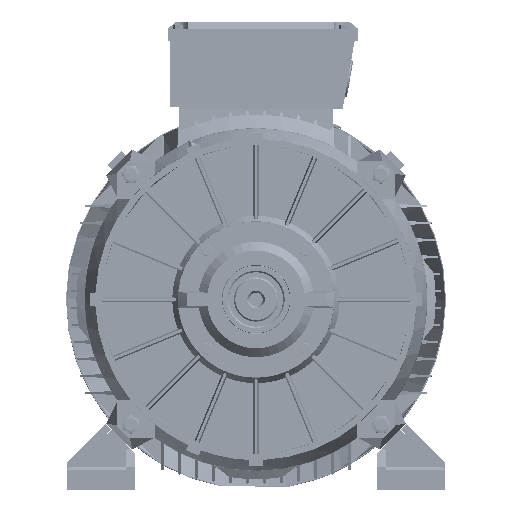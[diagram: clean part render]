
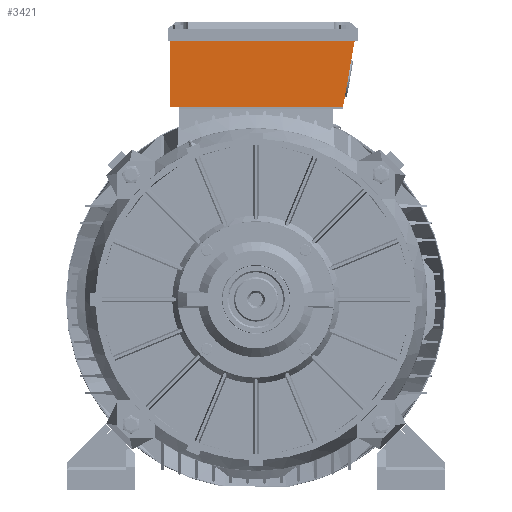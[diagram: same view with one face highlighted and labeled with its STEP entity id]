
A CAD part, left-side view. The second image highlights one B-rep face of the part: STEP entity #3421.
In plain terms, the highlighted planar face has unit normal (-1, 0, 0) as drawn and (0, 0, 1) by its records, which use the part's own axes.
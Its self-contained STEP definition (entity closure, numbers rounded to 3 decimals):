
#2984 = VERTEX_POINT ( 'NONE', #65560 ) ;
#2988 = EDGE_CURVE ( 'NONE', #2990, #2984, #65555, .T. ) ;
#2990 = VERTEX_POINT ( 'NONE', #65549 ) ;
#3421 = ADVANCED_FACE ( 'NONE', ( #66239 ), #66347, .T. ) ;
#3425 = EDGE_LOOP ( 'NONE', ( #3473, #3482, #3486, #3496 ) ) ;
#3473 = ORIENTED_EDGE ( 'NONE', *, *, #3476, .T. ) ;
#3476 = EDGE_CURVE ( 'NONE', #3478, #2990, #66398, .T. ) ;
#3478 = VERTEX_POINT ( 'NONE', #66379 ) ;
#3482 = ORIENTED_EDGE ( 'NONE', *, *, #2988, .T. ) ;
#3486 = ORIENTED_EDGE ( 'NONE', *, *, #3488, .T. ) ;
#3488 = EDGE_CURVE ( 'NONE', #2984, #3492, #66375, .T. ) ;
#3492 = VERTEX_POINT ( 'NONE', #66360 ) ;
#3496 = ORIENTED_EDGE ( 'NONE', *, *, #3498, .T. ) ;
#3498 = EDGE_CURVE ( 'NONE', #3492, #3478, #66357, .T. ) ;
#65549 = CARTESIAN_POINT ( 'NONE',  ( 253.929, 3., 118.5 ) ) ;
#65551 = DIRECTION ( 'NONE',  ( 0.174, 0.985, 0. ) ) ;
#65552 = VECTOR ( 'NONE', #65551, 1000. ) ;
#65554 = CARTESIAN_POINT ( 'NONE',  ( 253.4, 0., 118.5 ) ) ;
#65555 = LINE ( 'NONE', #65554, #65552 ) ;
#65560 = CARTESIAN_POINT ( 'NONE',  ( 271.033, 100., 118.5 ) ) ;
#66239 = FACE_OUTER_BOUND ( 'NONE', #3425, .T. ) ;
#66342 = DIRECTION ( 'NONE',  ( 1., 0., 0. ) ) ;
#66343 = DIRECTION ( 'NONE',  ( 0., 0., 1. ) ) ;
#66344 = CARTESIAN_POINT ( 'NONE',  ( 13.5, 0., 118.5 ) ) ;
#66346 = AXIS2_PLACEMENT_3D ( 'NONE', #66344, #66343, #66342 ) ;
#66347 = PLANE ( 'NONE',  #66346 ) ;
#66352 = DIRECTION ( 'NONE',  ( 0., -1., 0. ) ) ;
#66354 = VECTOR ( 'NONE', #66352, 1000. ) ;
#66355 = CARTESIAN_POINT ( 'NONE',  ( 0., 3., 118.5 ) ) ;
#66357 = LINE ( 'NONE', #66355, #66354 ) ;
#66360 = CARTESIAN_POINT ( 'NONE',  ( 0., 100., 118.5 ) ) ;
#66369 = DIRECTION ( 'NONE',  ( -1., 0., 0. ) ) ;
#66371 = VECTOR ( 'NONE', #66369, 1000. ) ;
#66373 = CARTESIAN_POINT ( 'NONE',  ( 0., 100., 118.5 ) ) ;
#66375 = LINE ( 'NONE', #66373, #66371 ) ;
#66379 = CARTESIAN_POINT ( 'NONE',  ( 0., 3., 118.5 ) ) ;
#66393 = DIRECTION ( 'NONE',  ( 1., 0., 0. ) ) ;
#66394 = VECTOR ( 'NONE', #66393, 1000. ) ;
#66396 = CARTESIAN_POINT ( 'NONE',  ( 0., 3., 118.5 ) ) ;
#66398 = LINE ( 'NONE', #66396, #66394 ) ;
